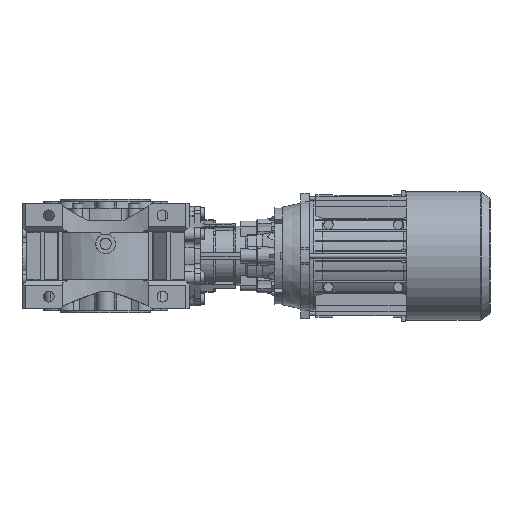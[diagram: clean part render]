
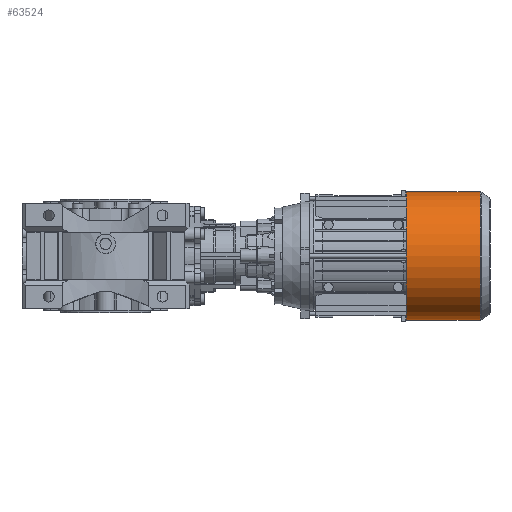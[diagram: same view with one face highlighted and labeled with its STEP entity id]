
A CAD part, front view. The second image highlights one B-rep face of the part: STEP entity #63524.
In plain terms, the highlighted cylindrical face has radius 78.95 mm (diameter 157.9 mm), a full revolution.
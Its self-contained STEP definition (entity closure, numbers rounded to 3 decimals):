
#1935=CIRCLE('',#81770,78.95);
#1936=CIRCLE('',#81772,78.95);
#4512=CYLINDRICAL_SURFACE('',#81771,78.95);
#23104=ORIENTED_EDGE('',*,*,#38977,.F.);
#23105=ORIENTED_EDGE('',*,*,#38976,.T.);
#38976=EDGE_CURVE('',#47486,#47486,#1935,.T.);
#38977=EDGE_CURVE('',#47487,#47487,#1936,.T.);
#47486=VERTEX_POINT('',#112699);
#47487=VERTEX_POINT('',#112702);
#53631=EDGE_LOOP('',(#23104));
#53632=EDGE_LOOP('',(#23105));
#57676=FACE_BOUND('',#53631,.T.);
#57677=FACE_BOUND('',#53632,.T.);
#63524=ADVANCED_FACE('',(#57676,#57677),#4512,.T.);
#81770=AXIS2_PLACEMENT_3D('',#112698,#93385,#93386);
#81771=AXIS2_PLACEMENT_3D('',#112700,#93387,#93388);
#81772=AXIS2_PLACEMENT_3D('',#112701,#93389,#93390);
#93385=DIRECTION('',(1.,0.,0.));
#93386=DIRECTION('',(0.,0.,-1.));
#93387=DIRECTION('',(1.,0.,0.));
#93388=DIRECTION('',(0.,0.,-1.));
#93389=DIRECTION('',(1.,0.,0.));
#93390=DIRECTION('',(0.,0.,-1.));
#112698=CARTESIAN_POINT('',(0.,0.,0.));
#112699=CARTESIAN_POINT('',(0.,0.,-78.95));
#112700=CARTESIAN_POINT('',(103.,0.,0.));
#112701=CARTESIAN_POINT('',(91.016,0.,0.));
#112702=CARTESIAN_POINT('',(91.016,0.,-78.95));
